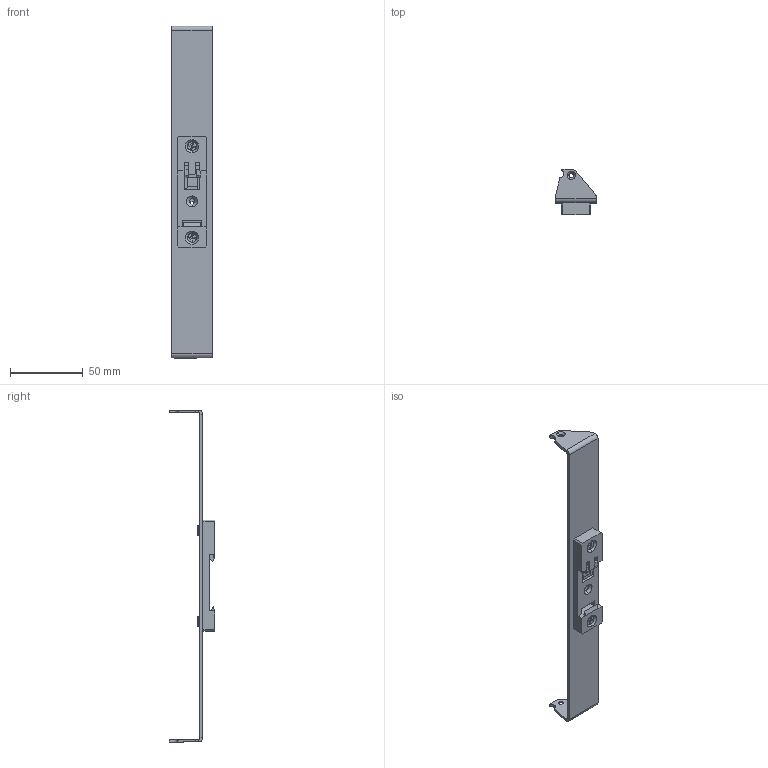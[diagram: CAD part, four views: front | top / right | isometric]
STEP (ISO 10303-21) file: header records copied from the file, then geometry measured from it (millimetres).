
FILE_DESCRIPTION (( 'STEP AP214' ), '1' );
FILE_NAME ('BRV220 assembly.STEP', '2024-02-07T16:05:58', ( '' ), ( '' ), 'SwSTEP 2.0', 'SolidWorks 2016', '' );
FILE_SCHEMA (( 'AUTOMOTIVE_DESIGN' ));
Length unit declared in the file: inch
Products named in the file (15): 6-32 PEM Nut; Clamp mechanism; Pusher; BRV220; flat head screw_ai_CR-FHMS 0.138-32x0.375x0.375-N; flat head screw_ai; spring; BRV220 assembly
Assembly tree (8 placements, depth 2):
  6-32 PEM Nut
  6-32 PEM Nut
  Clamp mechanism
  Pusher
  BRV220
Bounding box: 28 x 31 x 228.5 mm (x, y, z)
Volume: 22263.9 mm3; surface area: 21770.4 mm2
Topology: 8 solids, 8 shells, 251 faces, 630 edges, 398 vertices
Faces by surface type: plane 154, cylinder 69, cone 14, torus 8, bspline 6
Entity records: 7545 total; most frequent: CARTESIAN_POINT 2036, ORIENTED_EDGE 1064, DIRECTION 1048, EDGE_CURVE 532, LINE 398, VECTOR 398, VERTEX_POINT 338, AXIS2_PLACEMENT_3D 325
